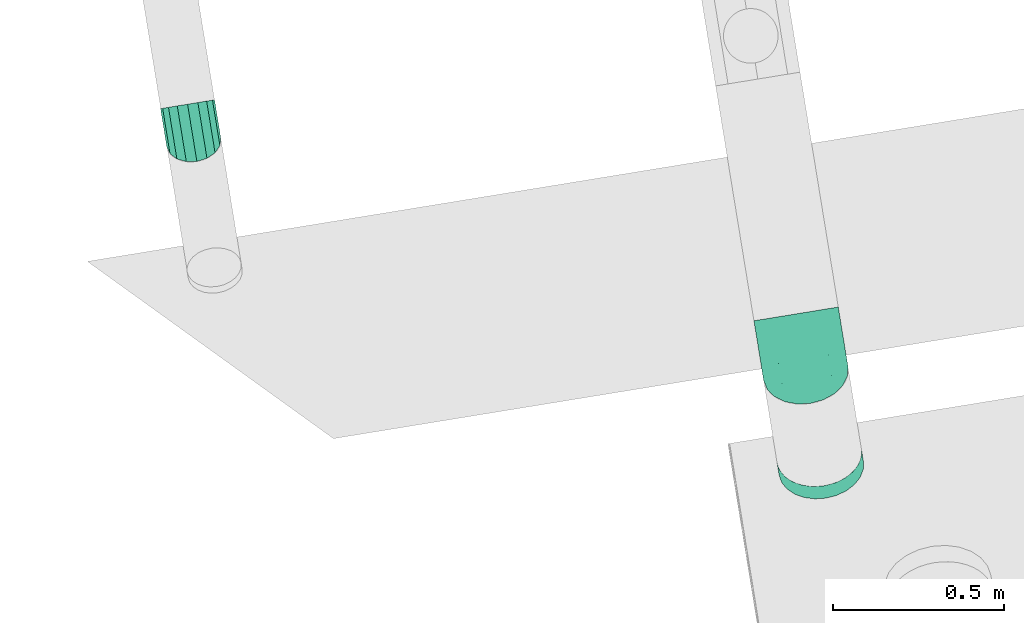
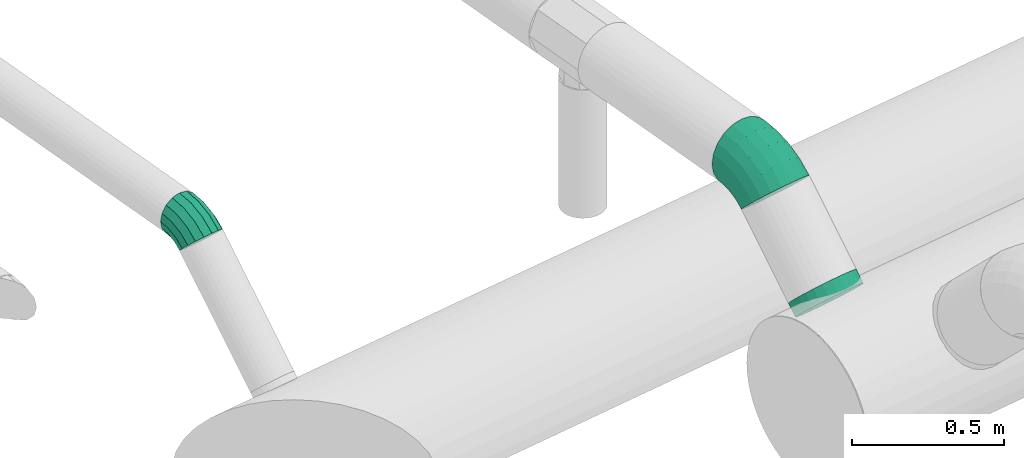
# One storey, part 10 of 15: 3 flow fittings.
"""IFC2X3 building model written with IfcOpenShell, lengths in millimetres."""

from ifc_helpers import new_model, entity, si_unit, converted_unit, derived_unit, direction, frame, origin, origin_with_axes, place, context, subcontext, project, spatial, faceted_brep, source, transform, mapped, material, type_object, element, save


model = new_model("IFC2X3")

# Units and contexts
model_context = context("Model", 3, precision=0.01, world=origin(), true_north=direction((6.12323399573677e-17, 1.0)))
plan_context = context("Plan", 3, precision=1e-05, world=origin_with_axes())
body_context = subcontext(model_context, "Body", "Model", "MODEL_VIEW")
ifc_project = project(units=[converted_unit("PLANEANGLEUNIT", "DEGREE", entity("IfcPositiveLengthMeasure", 0.0174532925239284), si_unit("PLANEANGLEUNIT", "RADIAN"), dimensions=[0, 0, 0, 0, 0, 0, 0]), si_unit("AREAUNIT", "SQUARE_METRE"), si_unit("LENGTHUNIT", "METRE", prefix="MILLI"), si_unit("MASSUNIT", "GRAM", prefix="KILO"), si_unit("POWERUNIT", "WATT"), si_unit("PRESSUREUNIT", "PASCAL", prefix="KILO"), si_unit("FORCEUNIT", "NEWTON", prefix="KILO"), si_unit("ELECTRICVOLTAGEUNIT", "VOLT"), si_unit("ELECTRICCURRENTUNIT", "AMPERE"), si_unit("THERMODYNAMICTEMPERATUREUNIT", "DEGREE_CELSIUS"), si_unit("TIMEUNIT", "SECOND"), si_unit("VOLUMEUNIT", "CUBIC_METRE"), derived_unit("LINEARVELOCITYUNIT", [(si_unit("LENGTHUNIT", "METRE"), 1), (si_unit("TIMEUNIT", "SECOND"), -1)]), derived_unit("VOLUMETRICFLOWRATEUNIT", [(si_unit("VOLUMEUNIT", "CUBIC_METRE"), 1), (si_unit("TIMEUNIT", "SECOND"), -1)]), derived_unit("THERMALTRANSMITTANCEUNIT", [(si_unit("POWERUNIT", "WATT"), 1), (si_unit("THERMODYNAMICTEMPERATUREUNIT", "KELVIN"), -1), (si_unit("AREAUNIT", "SQUARE_METRE"), -1)]), derived_unit("SOUNDPRESSUREUNIT", [(si_unit("PRESSUREUNIT", "PASCAL"), 1)])], contexts=[model_context, plan_context])

# Site, building, storey
site_placement = place(None, frame((5.09380697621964e-08, 5.80416781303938e-08, 0.0), z_axis=(0.0, 0.0, 1.0), x_axis=(-0.160806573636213, 0.986985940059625, 0.0)))
site = spatial("IfcSite", under=ifc_project, at=site_placement, Name="Default", CompositionType="ELEMENT")
building_placement = place(site_placement, frame((0.0, 0.0, 0.0), z_axis=(0.0, 0.0, 1.0), x_axis=(1.0, -2.77555756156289e-17, 0.0)))
building = spatial("IfcBuilding", under=site, at=building_placement, Name="Bygning (endres i Project Information)", CompositionType="ELEMENT")
storey_placement = place(building_placement, frame((0.0, 0.0, 51360.0000000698), z_axis=(0.0, 0.0, 1.0), x_axis=(1.0, -2.77555756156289e-17, 0.0)))
storey = spatial("IfcBuildingStorey", under=building, at=storey_placement, Name="H01-Nivå D+0,36", CompositionType="ELEMENT", Elevation=51360.0000000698)

# Flow fittings
ifc_material_1 = material(Name="3601.001 Tilluft")
duct_fitting_type_1 = type_object("IfcDuctFittingType", Name="magicirc_elbow_full_radius_NOR:magicirc_elbow_full_radius_NOR", PredefinedType="NOTDEFINED", material=ifc_material_1)
shared_shape_1 = source(origin(), body_context, "Body", "Brep", [
    faceted_brep([(-30.3945198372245, -117.794480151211, 0.0), (-31.5880698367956, -111.79409910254, 38.627124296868), (-103.553390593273, -118.882064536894, 38.627124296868), (-103.553390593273, -125.0, 0.0), (-35.0518868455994, -94.3803150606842, 73.4731565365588), (-103.553390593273, -101.127124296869, 73.4731565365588), (-40.4469083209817, -67.2577105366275, 101.127124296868), (-103.553390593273, -73.4731565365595, 101.127124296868), (-47.2450319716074, -33.0812350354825, 118.882064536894), (-103.553390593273, -38.6271242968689, 118.882064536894), (-54.7808100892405, 4.80367989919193, 125.0), (-103.553390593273, 0.0, 125.0), (-62.3165882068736, 42.6885948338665, 118.882064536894), (-103.553390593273, 38.6271242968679, 118.882064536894), (-69.1147118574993, 76.8650703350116, 101.127124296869), (-103.553390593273, 73.4731565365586, 101.127124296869), (-74.5097333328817, 103.987674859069, 73.4731565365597), (-103.553390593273, 101.127124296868, 73.4731565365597), (-77.9735503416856, 121.401458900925, 38.6271242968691), (-103.553390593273, 118.882064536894, 38.6271242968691), (-79.1671003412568, 127.401839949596, 0.0), (-103.553390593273, 125.0, 0.0), (-77.9735503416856, 121.401458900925, -38.6271242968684), (-103.553390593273, 118.882064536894, -38.6271242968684), (-74.5097333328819, 103.987674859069, -73.4731565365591), (-103.553390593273, 101.127124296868, -73.4731565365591), (-69.1147118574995, 76.8650703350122, -101.127124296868), (-103.553390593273, 73.4731565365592, -101.127124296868), (-62.3165882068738, 42.6885948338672, -118.882064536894), (-103.553390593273, 38.6271242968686, -118.882064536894), (-54.7808100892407, 4.80367989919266, -125.0), (-103.553390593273, 0.0, -125.0), (-47.2450319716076, -33.0812350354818, -118.882064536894), (-103.553390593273, -38.6271242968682, -118.882064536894), (-40.4469083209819, -67.2577105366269, -101.127124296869), (-103.553390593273, -73.4731565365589, -101.127124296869), (-35.0518868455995, -94.3803150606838, -73.4731565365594), (-103.553390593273, -101.127124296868, -73.4731565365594), (-31.5880698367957, -111.79409910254, -38.6271242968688), (-103.553390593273, -118.882064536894, -38.6271242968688), (39.9528965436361, -96.4548246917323, 0.0), (37.6116640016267, -90.802589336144, 38.627124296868), (30.8171425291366, -74.3991634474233, 73.4731565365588), (20.2344272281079, -48.8502286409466, 101.127124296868), (6.89942800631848, -16.656692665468, 118.882064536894), (-7.88253250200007, 19.030116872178, 125.0), (-22.6644930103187, 54.7169264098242, 118.882064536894), (-35.9994922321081, 86.9104623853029, 101.127124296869), (-46.5822075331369, 112.45939719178, 73.4731565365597), (-53.3767290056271, 128.862823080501, 38.6271242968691), (-55.7179615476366, 134.515058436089, 0.0), (-53.3767290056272, 128.862823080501, -38.6271242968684), (-46.5822075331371, 112.45939719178, -73.4731565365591), (-35.9994922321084, 86.9104623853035, -101.127124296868), (-22.6644930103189, 54.7169264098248, -118.882064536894), (-7.88253250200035, 19.0301168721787, -125.0), (6.89942800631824, -16.6566926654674, -118.882064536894), (20.2344272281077, -48.8502286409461, -101.127124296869), (30.8171425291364, -74.3991634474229, -73.4731565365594), (37.6116640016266, -90.8025893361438, -38.6271242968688), (104.785446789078, -61.8011046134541, 0.0), (101.386503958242, -56.7142271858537, 38.627124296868), (91.5223876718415, -41.9515339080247, 73.4731565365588), (76.1586663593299, -18.9581000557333, 101.127124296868), (56.7992481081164, 10.0153168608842, 118.882064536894), (35.3391676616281, 42.1325969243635, 125.0), (13.8790872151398, 74.2498769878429, 118.882064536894), (-5.48033103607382, 103.223293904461, 101.127124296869), (-20.8440523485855, 126.216727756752, 73.4731565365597), (-30.7081686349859, 140.979421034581, 38.6271242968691), (-34.1071114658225, 146.066298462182, 0.0), (-30.708168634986, 140.979421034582, -38.6271242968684), (-20.8440523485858, 126.216727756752, -73.4731565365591), (-5.48033103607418, 103.223293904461, -101.127124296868), (13.8790872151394, 74.2498769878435, -118.882064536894), (35.3391676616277, 42.1325969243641, -125.0), (56.799248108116, 10.0153168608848, -118.882064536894), (76.1586663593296, -18.9581000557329, -101.127124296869), (91.5223876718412, -41.9515339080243, -73.4731565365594), (101.386503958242, -56.7142271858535, -38.6271242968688), (161.611652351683, -15.1650429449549, 0.0), (157.285618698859, -10.8390092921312, 38.627124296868), (144.730980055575, 1.71562935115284, 73.4731565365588), (125.176671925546, 21.2699374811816, 101.127124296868), (100.536806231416, 45.9098031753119, 118.882064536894), (73.2233047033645, 73.2233047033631, 125.0), (45.9098031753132, 100.536806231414, 118.882064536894), (21.2699374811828, 125.176671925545, 101.127124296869), (1.71562935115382, 144.730980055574, 73.4731565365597), (-10.8390092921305, 157.285618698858, 38.6271242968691), (-15.1650429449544, 161.611652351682, 0.0), (-10.8390092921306, 157.285618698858, -38.6271242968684), (1.71562935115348, 144.730980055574, -73.4731565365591), (21.2699374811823, 125.176671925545, -101.127124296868), (45.9098031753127, 100.536806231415, -118.882064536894), (73.223304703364, 73.2233047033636, -125.0), (100.536806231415, 45.9098031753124, -118.882064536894), (125.176671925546, 21.269937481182, -101.127124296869), (144.730980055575, 1.71562935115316, -73.4731565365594), (157.285618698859, -10.839009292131, -38.6271242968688)], [[[0, 1, 2, 3]], [[1, 4, 5, 2]], [[4, 6, 7, 5]], [[6, 8, 9, 7]], [[8, 10, 11, 9]], [[10, 12, 13, 11]], [[12, 14, 15, 13]], [[14, 16, 17, 15]], [[16, 18, 19, 17]], [[18, 20, 21, 19]], [[20, 22, 23, 21]], [[22, 24, 25, 23]], [[24, 26, 27, 25]], [[26, 28, 29, 27]], [[28, 30, 31, 29]], [[30, 32, 33, 31]], [[32, 34, 35, 33]], [[34, 36, 37, 35]], [[36, 38, 39, 37]], [[38, 0, 3, 39]], [[40, 41, 1, 0]], [[41, 42, 4, 1]], [[42, 43, 6, 4]], [[43, 44, 8, 6]], [[44, 45, 10, 8]], [[45, 46, 12, 10]], [[46, 47, 14, 12]], [[47, 48, 16, 14]], [[48, 49, 18, 16]], [[49, 50, 20, 18]], [[50, 51, 22, 20]], [[51, 52, 24, 22]], [[52, 53, 26, 24]], [[53, 54, 28, 26]], [[54, 55, 30, 28]], [[55, 56, 32, 30]], [[56, 57, 34, 32]], [[57, 58, 36, 34]], [[58, 59, 38, 36]], [[59, 40, 0, 38]], [[60, 61, 41, 40]], [[61, 62, 42, 41]], [[62, 63, 43, 42]], [[63, 64, 44, 43]], [[64, 65, 45, 44]], [[65, 66, 46, 45]], [[66, 67, 47, 46]], [[67, 68, 48, 47]], [[68, 69, 49, 48]], [[69, 70, 50, 49]], [[70, 71, 51, 50]], [[71, 72, 52, 51]], [[72, 73, 53, 52]], [[73, 74, 54, 53]], [[74, 75, 55, 54]], [[75, 76, 56, 55]], [[76, 77, 57, 56]], [[77, 78, 58, 57]], [[78, 79, 59, 58]], [[79, 60, 40, 59]], [[80, 81, 61, 60]], [[81, 82, 62, 61]], [[82, 83, 63, 62]], [[83, 84, 64, 63]], [[84, 85, 65, 64]], [[85, 86, 66, 65]], [[86, 87, 67, 66]], [[87, 88, 68, 67]], [[88, 89, 69, 68]], [[89, 90, 70, 69]], [[90, 91, 71, 70]], [[91, 92, 72, 71]], [[92, 93, 73, 72]], [[93, 94, 74, 73]], [[94, 95, 75, 74]], [[95, 96, 76, 75]], [[96, 97, 77, 76]], [[97, 98, 78, 77]], [[98, 99, 79, 78]], [[99, 80, 60, 79]], [[3, 2, 5, 7, 9, 11, 13, 15, 17, 19, 21, 23, 25, 27, 29, 31, 33, 35, 37, 39]], [[99, 98, 97, 96, 95, 94, 93, 92, 91, 90, 89, 88, 87, 86, 85, 84, 83, 82, 81, 80]]]),
])
flow_fitting_1_placement = place(storey_placement, frame((994885.466825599, -340124.100723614, 3804.29489743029), z_axis=(-2.77555756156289e-17, -1.0, 0.0), x_axis=(-1.0, 2.77555756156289e-17, 0.0)))
element("IfcFlowFitting", 1, at=flow_fitting_1_placement, inside=storey, type_object=duct_fitting_type_1, material=ifc_material_1, Name="magicirc_elbow_full_radius_NOR:magicirc_elbow_full_radius_NOR", ObjectType="magicirc_elbow_full_radius_NOR:magicirc_elbow_full_radius_NOR", context=body_context, shape_type="MappedRepresentation", body=[
    mapped(shared_shape_1, transform((0.0, 0.0, 0.0), scale=1.0)),
])
ifc_material_2 = material(Name="3601.001 Avtrekk")
duct_fitting_type_2 = type_object("IfcDuctFittingType", Name="magicirc_tapoutlet_001:magicirc_tapoutlet_001", PredefinedType="NOTDEFINED", material=ifc_material_2)
shared_shape_2 = source(origin(), body_context, "Body", "Brep", [
    faceted_brep([(-31.9593541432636, -32.3523806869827, -120.74072846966), (-31.9593541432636, -62.5000000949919, -108.253175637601), (-31.9593541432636, -88.3883477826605, -88.3883477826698), (-31.9593541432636, -108.253175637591, -62.5000000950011), (-31.9593541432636, -120.740728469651, -32.3523806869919), (-31.9593541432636, -125.000000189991, 0.0), (-31.9593541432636, -120.74072846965, 32.3523806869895), (-31.9593541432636, -108.25317563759, 62.5000000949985), (-31.9593541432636, -88.3883477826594, 88.3883477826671), (-31.9593541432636, -62.5000000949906, 108.253175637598), (-31.9593541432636, -32.3523806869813, 120.740728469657), (-31.9593541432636, 0.0, 125.000000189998), (-31.9593541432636, 32.3523806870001, 120.740728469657), (-31.9593541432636, 62.5000000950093, 108.253175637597), (-31.9593541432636, 88.3883477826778, 88.388347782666), (-31.9593541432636, 108.253175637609, 62.5000000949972), (-31.9593541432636, 120.740728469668, 32.3523806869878), (-31.9593541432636, 125.00000019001, 0.0), (-31.9593541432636, 120.740728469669, -32.3523806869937), (-31.9593541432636, 108.253175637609, -62.5000000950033), (-31.9593541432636, 88.3883477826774, -88.3883477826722), (-31.9593541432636, 62.500000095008, -108.253175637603), (-31.9593541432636, 32.352380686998, -120.740728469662), (-31.9593541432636, 0.0, -125.000000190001), (0.0, -32.3523806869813, 120.740728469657), (20.0, -32.3523806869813, 120.740728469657), (20.0, 0.0, 125.000000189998), (0.0, 0.0, 125.000000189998), (0.0, -62.5000000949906, 108.253175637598), (20.0, -62.5000000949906, 108.253175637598), (0.0, -88.3883477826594, 88.3883477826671), (20.0, -88.3883477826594, 88.3883477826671), (0.0, -120.74072846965, 32.3523806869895), (20.0, -120.74072846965, 32.3523806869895), (20.0, -108.25317563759, 62.5000000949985), (0.0, -108.25317563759, 62.5000000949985), (0.0, -125.000000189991, 0.0), (20.0, -125.000000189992, 0.0), (0.0, -120.740728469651, -32.3523806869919), (20.0, -120.740728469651, -32.3523806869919), (0.0, -108.253175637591, -62.5000000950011), (20.0, -108.253175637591, -62.5000000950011), (0.0, -88.3883477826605, -88.3883477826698), (20.0, -88.3883477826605, -88.3883477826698), (0.0, 0.0, -125.000000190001), (20.0, 0.0, -125.000000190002), (20.0, -32.3523806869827, -120.74072846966), (0.0, -32.3523806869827, -120.74072846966), (20.0, -62.5000000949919, -108.253175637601), (0.0, -62.5000000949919, -108.253175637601), (0.0, 32.352380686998, -120.740728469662), (20.0, 32.352380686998, -120.740728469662), (0.0, 62.500000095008, -108.253175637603), (20.0, 62.500000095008, -108.253175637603), (0.0, 88.3883477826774, -88.3883477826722), (20.0, 88.3883477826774, -88.3883477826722), (0.0, 120.740728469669, -32.3523806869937), (20.0, 120.740728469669, -32.3523806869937), (20.0, 108.253175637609, -62.5000000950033), (0.0, 108.253175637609, -62.5000000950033), (0.0, 125.00000019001, 0.0), (20.0, 125.000000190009, 0.0), (0.0, 120.740728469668, 32.3523806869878), (20.0, 120.740728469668, 32.3523806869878), (0.0, 108.253175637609, 62.5000000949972), (20.0, 108.253175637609, 62.5000000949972), (0.0, 88.3883477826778, 88.388347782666), (20.0, 88.3883477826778, 88.388347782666), (0.0, 32.3523806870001, 120.740728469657), (20.0, 32.3523806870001, 120.740728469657), (20.0, 62.5000000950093, 108.253175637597), (0.0, 62.5000000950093, 108.253175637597)], [[[0, 1, 2, 3, 4, 5, 6, 7, 8, 9, 10, 11, 12, 13, 14, 15, 16, 17, 18, 19, 20, 21, 22, 23]], [[24, 25, 26, 27, 11, 10]], [[28, 29, 25, 24, 10, 9]], [[8, 30, 31, 29, 28, 9]], [[32, 33, 34, 35, 7, 6]], [[36, 37, 33, 32, 6, 5]], [[7, 35, 34, 31, 30, 8]], [[38, 39, 37, 36, 5, 4]], [[40, 41, 39, 38, 4, 3]], [[2, 42, 43, 41, 40, 3]], [[23, 44, 45, 46, 47, 0]], [[0, 47, 46, 48, 49, 1]], [[1, 49, 48, 43, 42, 2]], [[50, 51, 45, 44, 23, 22]], [[52, 53, 51, 50, 22, 21]], [[20, 54, 55, 53, 52, 21]], [[56, 57, 58, 59, 19, 18]], [[60, 61, 57, 56, 18, 17]], [[19, 59, 58, 55, 54, 20]], [[62, 63, 61, 60, 17, 16]], [[64, 65, 63, 62, 16, 15]], [[14, 66, 67, 65, 64, 15]], [[68, 69, 70, 71, 13, 12]], [[27, 26, 69, 68, 12, 11]], [[13, 71, 70, 67, 66, 14]], [[45, 51, 53, 55, 58, 57, 61, 63, 65, 67, 70, 69, 26, 25, 29, 31, 34, 33, 37, 39, 41, 43, 48, 46]]]),
    faceted_brep([(20.0, 0.0, -125.000000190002), (20.0, 32.352380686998, -120.740728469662), (20.0, 62.500000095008, -108.253175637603), (20.0, 88.3883477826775, -88.3883477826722), (20.0, 108.253175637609, -62.5000000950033), (20.0, 120.740728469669, -32.3523806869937), (20.0, 125.000000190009, 0.0), (20.0, 120.740728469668, 32.3523806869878), (20.0, 108.253175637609, 62.5000000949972), (20.0, 88.3883477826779, 88.388347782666), (20.0, 62.5000000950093, 108.253175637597), (20.0, 32.3523806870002, 120.740728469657), (20.0, 0.0, 125.000000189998), (20.0, -32.3523806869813, 120.740728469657), (20.0, -62.5000000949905, 108.253175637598), (20.0, -88.3883477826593, 88.3883477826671), (20.0, -108.25317563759, 62.5000000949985), (20.0, -120.74072846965, 32.3523806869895), (20.0, -125.000000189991, 0.0), (20.0, -120.740728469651, -32.3523806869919), (20.0, -108.253175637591, -62.5000000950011), (20.0, -88.3883477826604, -88.3883477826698), (20.0, -62.5000000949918, -108.253175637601), (20.0, -32.3523806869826, -120.74072846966), (0.0, 0.0, 125.000000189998), (-31.9593541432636, 0.0, 125.000000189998), (-31.9593541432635, -32.3523806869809, 120.740728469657), (0.0, -32.3523806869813, 120.740728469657), (-31.9593541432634, -62.5000000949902, 108.253175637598), (0.0, -62.5000000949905, 108.253175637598), (0.0, -88.3883477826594, 88.3883477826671), (-31.9593541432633, -88.388347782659, 88.3883477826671), (0.0, -108.25317563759, 62.5000000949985), (-31.9593541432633, -108.25317563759, 62.5000000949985), (-31.9593541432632, -120.74072846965, 32.3523806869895), (0.0, -120.74072846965, 32.3523806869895), (-31.9593541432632, -125.000000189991, 0.0), (0.0, -125.000000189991, 0.0), (-31.9593541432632, -120.740728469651, -32.3523806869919), (0.0, -120.740728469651, -32.3523806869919), (-31.9593541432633, -108.253175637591, -62.5000000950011), (0.0, -108.253175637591, -62.5000000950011), (0.0, -88.3883477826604, -88.3883477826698), (-31.9593541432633, -88.38834778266, -88.3883477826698), (0.0, 0.0, -125.000000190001), (0.0, -32.3523806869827, -120.74072846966), (-31.9593541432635, -32.3523806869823, -120.74072846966), (-31.9593541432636, 0.0, -125.000000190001), (0.0, -62.5000000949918, -108.253175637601), (-31.9593541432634, -62.5000000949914, -108.253175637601), (-31.9593541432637, 32.3523806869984, -120.740728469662), (0.0, 32.352380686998, -120.740728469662), (-31.9593541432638, 62.5000000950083, -108.253175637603), (0.0, 62.500000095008, -108.253175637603), (0.0, 88.3883477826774, -88.3883477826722), (-31.9593541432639, 88.3883477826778, -88.3883477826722), (0.0, 108.253175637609, -62.5000000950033), (-31.959354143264, 108.253175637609, -62.5000000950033), (-31.959354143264, 120.74072846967, -32.3523806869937), (0.0, 120.740728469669, -32.3523806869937), (-31.959354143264, 125.00000019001, 0.0), (0.0, 125.00000019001, 0.0), (-31.959354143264, 120.740728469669, 32.3523806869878), (0.0, 120.740728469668, 32.3523806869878), (-31.959354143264, 108.253175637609, 62.5000000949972), (0.0, 108.253175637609, 62.5000000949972), (0.0, 88.3883477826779, 88.388347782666), (-31.9593541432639, 88.3883477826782, 88.388347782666), (0.0, 62.5000000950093, 108.253175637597), (-31.9593541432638, 62.5000000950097, 108.253175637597), (-31.9593541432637, 32.3523806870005, 120.740728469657), (0.0, 32.3523806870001, 120.740728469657)], [[[0, 1, 2, 3, 4, 5, 6, 7, 8, 9, 10, 11, 12, 13, 14, 15, 16, 17, 18, 19, 20, 21, 22, 23]], [[13, 12, 24, 25, 26, 27]], [[14, 13, 27, 26, 28, 29]], [[30, 15, 14, 29, 28, 31]], [[17, 16, 32, 33, 34, 35]], [[18, 17, 35, 34, 36, 37]], [[32, 16, 15, 30, 31, 33]], [[19, 18, 37, 36, 38, 39]], [[20, 19, 39, 38, 40, 41]], [[42, 21, 20, 41, 40, 43]], [[44, 0, 23, 45, 46, 47]], [[45, 23, 22, 48, 49, 46]], [[48, 22, 21, 42, 43, 49]], [[1, 0, 44, 47, 50, 51]], [[2, 1, 51, 50, 52, 53]], [[54, 3, 2, 53, 52, 55]], [[5, 4, 56, 57, 58, 59]], [[6, 5, 59, 58, 60, 61]], [[56, 4, 3, 54, 55, 57]], [[7, 6, 61, 60, 62, 63]], [[8, 7, 63, 62, 64, 65]], [[66, 9, 8, 65, 64, 67]], [[11, 10, 68, 69, 70, 71]], [[12, 11, 71, 70, 25, 24]], [[68, 10, 9, 66, 67, 69]], [[46, 49, 43, 40, 38, 36, 34, 33, 31, 28, 26, 25, 70, 69, 67, 64, 62, 60, 58, 57, 55, 52, 50, 47]]]),
    faceted_brep([(-31.9593541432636, -32.3523806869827, -120.74072846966), (-31.9593541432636, -62.5000000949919, -108.253175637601), (-31.9593541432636, -88.3883477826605, -88.3883477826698), (-31.9593541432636, -108.253175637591, -62.5000000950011), (-31.9593541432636, -120.740728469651, -32.3523806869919), (-31.9593541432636, -125.000000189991, 0.0), (-31.9593541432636, -120.74072846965, 32.3523806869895), (-31.9593541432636, -108.25317563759, 62.5000000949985), (-31.9593541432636, -88.3883477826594, 88.3883477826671), (-31.9593541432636, -62.5000000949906, 108.253175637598), (-31.9593541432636, -32.3523806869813, 120.740728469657), (-31.9593541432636, 0.0, 125.000000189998), (-31.9593541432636, 32.3523806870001, 120.740728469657), (-31.9593541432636, 62.5000000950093, 108.253175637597), (-31.9593541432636, 88.3883477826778, 88.388347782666), (-31.9593541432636, 108.253175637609, 62.5000000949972), (-31.9593541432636, 120.740728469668, 32.3523806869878), (-31.9593541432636, 125.00000019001, 0.0), (-31.9593541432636, 120.740728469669, -32.3523806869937), (-31.9593541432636, 108.253175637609, -62.5000000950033), (-31.9593541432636, 88.3883477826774, -88.3883477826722), (-31.9593541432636, 62.500000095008, -108.253175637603), (-31.9593541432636, 32.352380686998, -120.740728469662), (-31.9593541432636, 0.0, -125.000000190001), (0.0, -32.3523806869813, 120.740728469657), (20.0, -32.3523806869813, 120.740728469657), (20.0, 0.0, 125.000000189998), (0.0, 0.0, 125.000000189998), (0.0, -62.5000000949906, 108.253175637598), (20.0, -62.5000000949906, 108.253175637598), (0.0, -88.3883477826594, 88.3883477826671), (20.0, -88.3883477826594, 88.3883477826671), (0.0, -120.74072846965, 32.3523806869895), (20.0, -120.74072846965, 32.3523806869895), (20.0, -108.25317563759, 62.5000000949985), (0.0, -108.25317563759, 62.5000000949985), (0.0, -125.000000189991, 0.0), (20.0, -125.000000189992, 0.0), (0.0, -120.740728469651, -32.3523806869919), (20.0, -120.740728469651, -32.3523806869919), (0.0, -108.253175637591, -62.5000000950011), (20.0, -108.253175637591, -62.5000000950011), (0.0, -88.3883477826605, -88.3883477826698), (20.0, -88.3883477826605, -88.3883477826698), (0.0, 0.0, -125.000000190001), (20.0, 0.0, -125.000000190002), (20.0, -32.3523806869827, -120.74072846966), (0.0, -32.3523806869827, -120.74072846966), (20.0, -62.5000000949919, -108.253175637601), (0.0, -62.5000000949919, -108.253175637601), (0.0, 32.352380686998, -120.740728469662), (20.0, 32.352380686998, -120.740728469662), (0.0, 62.500000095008, -108.253175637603), (20.0, 62.500000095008, -108.253175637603), (0.0, 88.3883477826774, -88.3883477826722), (20.0, 88.3883477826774, -88.3883477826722), (0.0, 120.740728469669, -32.3523806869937), (20.0, 120.740728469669, -32.3523806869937), (20.0, 108.253175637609, -62.5000000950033), (0.0, 108.253175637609, -62.5000000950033), (0.0, 125.00000019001, 0.0), (20.0, 125.000000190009, 0.0), (0.0, 120.740728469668, 32.3523806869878), (20.0, 120.740728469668, 32.3523806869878), (0.0, 108.253175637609, 62.5000000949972), (20.0, 108.253175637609, 62.5000000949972), (0.0, 88.3883477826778, 88.388347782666), (20.0, 88.3883477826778, 88.388347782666), (0.0, 32.3523806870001, 120.740728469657), (20.0, 32.3523806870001, 120.740728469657), (20.0, 62.5000000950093, 108.253175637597), (0.0, 62.5000000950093, 108.253175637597)], [[[0, 1, 2, 3, 4, 5, 6, 7, 8, 9, 10, 11, 12, 13, 14, 15, 16, 17, 18, 19, 20, 21, 22, 23]], [[24, 25, 26, 27, 11, 10]], [[28, 29, 25, 24, 10, 9]], [[8, 30, 31, 29, 28, 9]], [[32, 33, 34, 35, 7, 6]], [[36, 37, 33, 32, 6, 5]], [[7, 35, 34, 31, 30, 8]], [[38, 39, 37, 36, 5, 4]], [[40, 41, 39, 38, 4, 3]], [[2, 42, 43, 41, 40, 3]], [[23, 44, 45, 46, 47, 0]], [[0, 47, 46, 48, 49, 1]], [[1, 49, 48, 43, 42, 2]], [[50, 51, 45, 44, 23, 22]], [[52, 53, 51, 50, 22, 21]], [[20, 54, 55, 53, 52, 21]], [[56, 57, 58, 59, 19, 18]], [[60, 61, 57, 56, 18, 17]], [[19, 59, 58, 55, 54, 20]], [[62, 63, 61, 60, 17, 16]], [[64, 65, 63, 62, 16, 15]], [[14, 66, 67, 65, 64, 15]], [[68, 69, 70, 71, 13, 12]], [[27, 26, 69, 68, 12, 11]], [[13, 71, 70, 67, 66, 14]], [[45, 51, 53, 55, 58, 57, 61, 63, 65, 67, 70, 69, 26, 25, 29, 31, 34, 33, 37, 39, 41, 43, 48, 46]]]),
])
flow_fitting_2_placement = place(storey_placement, frame((994553.910564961, -340124.100723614, 3472.73863679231), z_axis=(0.707106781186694, -1.96261557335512e-17, -0.707106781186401), x_axis=(0.707106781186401, -1.38777878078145e-17, 0.707106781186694)))
element("IfcFlowFitting", 2, at=flow_fitting_2_placement, inside=storey, type_object=duct_fitting_type_2, material=ifc_material_2, Name="magicirc_tapoutlet_001:magicirc_tapoutlet_001", ObjectType="magicirc_tapoutlet_001:magicirc_tapoutlet_001", context=body_context, shape_type="MappedRepresentation", body=[
    mapped(shared_shape_2, transform((0.0, 0.0, 0.0), scale=1.0)),
])
duct_fitting_type_3 = type_object("IfcDuctFittingType", Name="magicirc_elbow_full_radius_NOR:magicirc_elbow_full_radius_NOR", PredefinedType="NOTDEFINED", material=ifc_material_1)
shared_shape_3 = source(origin(), body_context, "Body", "Brep", [
    faceted_brep([(-4.15759916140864, -71.822198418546, 0.0), (-5.73371330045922, -65.9400603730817, 30.6146746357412), (-66.2741700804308, -73.9103627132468, 30.6146746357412), (-66.2741700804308, -80.0000001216, 0.0), (-10.2221066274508, -49.1891484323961, 56.5685425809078), (-66.2741700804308, -56.5685425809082, 56.5685425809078), (-16.9394619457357, -24.1196370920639, 73.9103627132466), (-66.2741700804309, -30.6146746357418, 73.9103627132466), (-24.8631228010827, 5.45186780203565, 80.0000001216), (-66.2741700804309, 0.0, 80.0000001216), (-32.7867836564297, 35.0233726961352, 73.9103627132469), (-66.274170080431, 30.6146746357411, 73.9103627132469), (-39.5041389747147, 60.0928840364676, 56.5685425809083), (-66.274170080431, 56.5685425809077, 56.5685425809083), (-43.9925323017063, 76.8437959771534, 30.6146746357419), (-66.274170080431, 73.9103627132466, 30.6146746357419), (-45.5686464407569, 82.725934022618, 0.0), (-66.274170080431, 80.0000001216, 0.0), (-43.9925323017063, 76.8437959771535, -30.6146746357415), (-66.274170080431, 73.9103627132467, -30.6146746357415), (-39.5041389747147, 60.0928840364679, -56.568542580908), (-66.274170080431, 56.568542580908, -56.568542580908), (-32.7867836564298, 35.0233726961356, -73.9103627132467), (-66.274170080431, 30.6146746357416, -73.9103627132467), (-24.8631228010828, 5.45186780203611, -80.0000001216), (-66.2741700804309, 0.0, -80.0000001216), (-16.9394619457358, -24.1196370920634, -73.9103627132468), (-66.2741700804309, -30.6146746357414, -73.9103627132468), (-10.2221066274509, -49.1891484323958, -56.5685425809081), (-66.2741700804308, -56.5685425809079, -56.5685425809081), (-5.73371330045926, -65.9400603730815, -30.6146746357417), (-66.2741700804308, -73.9103627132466, -30.6146746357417), (53.7258301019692, -47.8460969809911, 0.0), (50.6810113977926, -42.5723162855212, 30.6146746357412), (42.0101013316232, -27.5538595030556, 56.5685425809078), (29.03316735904, -5.07715053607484, 73.9103627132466), (13.7258300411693, 21.4359354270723, 80.0000001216), (-1.58150727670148, 47.9490213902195, 73.9103627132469), (-14.5584412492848, 70.4257303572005, 56.5685425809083), (-23.2293513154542, 85.4441871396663, 30.6146746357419), (-26.274170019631, 90.7179678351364, 0.0), (-23.2293513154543, 85.4441871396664, -30.6146746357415), (-14.558441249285, 70.4257303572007, -56.568542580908), (-1.5815072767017, 47.9490213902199, -73.9103627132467), (13.725830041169, 21.4359354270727, -80.0000001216), (29.0331673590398, -5.07715053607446, -73.9103627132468), (42.0101013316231, -27.5538595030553, -56.5685425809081), (50.6810113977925, -42.5723162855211, -30.6146746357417), (103.431457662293, -9.70562749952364, 0.0), (99.1254337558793, -5.39960359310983, 30.6146746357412), (86.8629151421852, 6.86291502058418, 56.5685425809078), (68.5107591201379, 25.2150710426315, 73.9103627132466), (46.8629150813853, 46.8629150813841, 80.0000001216), (25.2150710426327, 68.5107591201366, 73.9103627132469), (6.86291502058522, 86.8629151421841, 56.5685425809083), (-5.39960359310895, 99.1254337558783, 30.6146746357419), (-9.70562749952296, 103.431457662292, 0.0), (-5.39960359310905, 99.1254337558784, -30.6146746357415), (6.86291502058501, 86.8629151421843, -56.568542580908), (25.2150710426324, 68.510759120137, -73.9103627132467), (46.862915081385, 46.8629150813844, -80.0000001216), (68.5107591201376, 25.2150710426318, -73.9103627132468), (86.862915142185, 6.8629150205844, -56.5685425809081), (99.1254337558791, -5.3996035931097, -30.6146746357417)], [[[0, 1, 2, 3]], [[1, 4, 5, 2]], [[4, 6, 7, 5]], [[6, 8, 9, 7]], [[8, 10, 11, 9]], [[10, 12, 13, 11]], [[12, 14, 15, 13]], [[14, 16, 17, 15]], [[16, 18, 19, 17]], [[18, 20, 21, 19]], [[20, 22, 23, 21]], [[22, 24, 25, 23]], [[24, 26, 27, 25]], [[26, 28, 29, 27]], [[28, 30, 31, 29]], [[30, 0, 3, 31]], [[32, 33, 1, 0]], [[33, 34, 4, 1]], [[34, 35, 6, 4]], [[35, 36, 8, 6]], [[36, 37, 10, 8]], [[37, 38, 12, 10]], [[38, 39, 14, 12]], [[39, 40, 16, 14]], [[40, 41, 18, 16]], [[41, 42, 20, 18]], [[42, 43, 22, 20]], [[43, 44, 24, 22]], [[44, 45, 26, 24]], [[45, 46, 28, 26]], [[46, 47, 30, 28]], [[47, 32, 0, 30]], [[48, 49, 33, 32]], [[49, 50, 34, 33]], [[50, 51, 35, 34]], [[51, 52, 36, 35]], [[52, 53, 37, 36]], [[53, 54, 38, 37]], [[54, 55, 39, 38]], [[55, 56, 40, 39]], [[56, 57, 41, 40]], [[57, 58, 42, 41]], [[58, 59, 43, 42]], [[59, 60, 44, 43]], [[60, 61, 45, 44]], [[61, 62, 46, 45]], [[62, 63, 47, 46]], [[63, 48, 32, 47]], [[3, 2, 5, 7, 9, 11, 13, 15, 17, 19, 21, 23, 25, 27, 29, 31]], [[63, 62, 61, 60, 59, 58, 57, 56, 55, 54, 53, 52, 51, 50, 49, 48]]]),
])
flow_fitting_3_placement = place(storey_placement, frame((995814.537174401, -338465.550404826, 3804.2992142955), z_axis=(0.0, -1.0, 0.0), x_axis=(-0.999999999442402, 0.0, -3.33945577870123e-05)))
element("IfcFlowFitting", 3, at=flow_fitting_3_placement, inside=storey, type_object=duct_fitting_type_3, material=ifc_material_1, Name="magicirc_elbow_full_radius_NOR:magicirc_elbow_full_radius_NOR", ObjectType="magicirc_elbow_full_radius_NOR:magicirc_elbow_full_radius_NOR", context=body_context, shape_type="MappedRepresentation", body=[
    mapped(shared_shape_3, transform((0.0, 0.0, 0.0), scale=1.0)),
])

save(model, "model.ifc")
